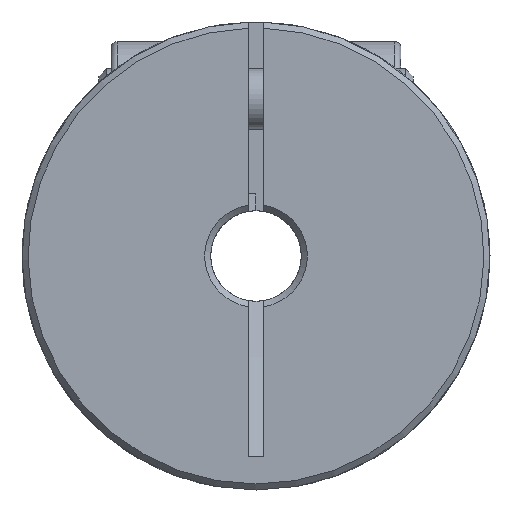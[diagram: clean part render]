
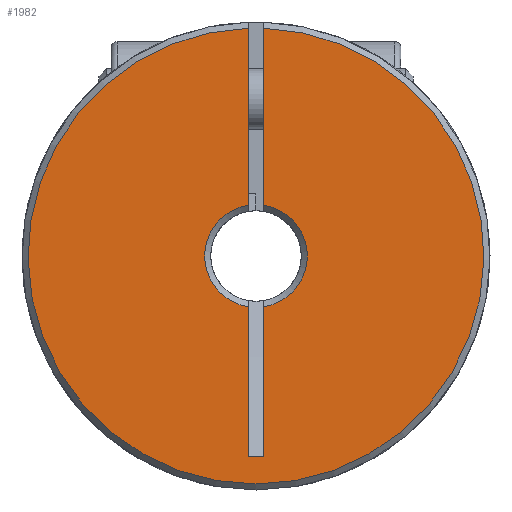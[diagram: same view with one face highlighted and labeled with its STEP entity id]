
A CAD part, left-side view. The second image highlights one B-rep face of the part: STEP entity #1982.
In plain terms, the highlighted planar face has unit normal (-1, 0, 0).
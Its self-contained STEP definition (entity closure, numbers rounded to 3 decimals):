
#137=LINE('',#3213,#217);
#140=LINE('',#3224,#220);
#143=LINE('',#3255,#223);
#148=LINE('',#3277,#228);
#149=LINE('',#3285,#229);
#217=VECTOR('',#2486,1000.);
#220=VECTOR('',#2491,1000.);
#223=VECTOR('',#2506,1000.);
#228=VECTOR('',#2515,1000.);
#229=VECTOR('',#2518,1000.);
#387=ORIENTED_EDGE('',*,*,#850,.T.);
#388=ORIENTED_EDGE('',*,*,#799,.F.);
#389=ORIENTED_EDGE('',*,*,#809,.F.);
#390=ORIENTED_EDGE('',*,*,#819,.T.);
#391=ORIENTED_EDGE('',*,*,#851,.T.);
#392=ORIENTED_EDGE('',*,*,#817,.T.);
#393=ORIENTED_EDGE('',*,*,#852,.F.);
#394=ORIENTED_EDGE('',*,*,#795,.F.);
#795=EDGE_CURVE('',#1031,#1032,#137,.T.);
#799=EDGE_CURVE('',#1035,#1036,#140,.T.);
#809=EDGE_CURVE('',#1044,#1035,#143,.T.);
#817=EDGE_CURVE('',#1047,#1051,#148,.T.);
#819=EDGE_CURVE('',#1044,#1052,#149,.T.);
#850=EDGE_CURVE('',#1031,#1036,#1219,.T.);
#851=EDGE_CURVE('',#1052,#1047,#1220,.T.);
#852=EDGE_CURVE('',#1032,#1051,#1221,.T.);
#1031=VERTEX_POINT('',#3212);
#1032=VERTEX_POINT('',#3214);
#1035=VERTEX_POINT('',#3225);
#1036=VERTEX_POINT('',#3226);
#1044=VERTEX_POINT('',#3254);
#1047=VERTEX_POINT('',#3264);
#1051=VERTEX_POINT('',#3276);
#1052=VERTEX_POINT('',#3283);
#1219=CIRCLE('',#2177,1.7);
#1220=CIRCLE('',#2178,1.7);
#1221=CIRCLE('',#2179,7.55);
#1365=EDGE_LOOP('',(#387,#388,#389,#390,#391,#392,#393,#394));
#1637=FACE_BOUND('',#1365,.T.);
#1892=PLANE('',#2176);
#1982=ADVANCED_FACE('',(#1637),#1892,.F.);
#2176=AXIS2_PLACEMENT_3D('',#3409,#2568,#2569);
#2177=AXIS2_PLACEMENT_3D('',#3410,#2570,#2571);
#2178=AXIS2_PLACEMENT_3D('',#3411,#2572,#2573);
#2179=AXIS2_PLACEMENT_3D('',#3412,#2574,#2575);
#2486=DIRECTION('',(0.,0.,1.));
#2491=DIRECTION('',(0.,0.,1.));
#2506=DIRECTION('',(0.,-1.,0.));
#2515=DIRECTION('',(0.,0.,1.));
#2518=DIRECTION('',(0.,0.,1.));
#2568=DIRECTION('',(1.,0.,0.));
#2569=DIRECTION('',(0.,0.,-1.));
#2570=DIRECTION('',(1.,0.,0.));
#2571=DIRECTION('',(0.,0.,-1.));
#2572=DIRECTION('',(1.,0.,0.));
#2573=DIRECTION('',(0.,0.,-1.));
#2574=DIRECTION('',(1.,0.,0.));
#2575=DIRECTION('',(0.,0.,-1.));
#3212=CARTESIAN_POINT('',(0.,-0.25,1.682));
#3213=CARTESIAN_POINT('',(0.,-0.25,-6.624));
#3214=CARTESIAN_POINT('',(0.,-0.25,7.546));
#3224=CARTESIAN_POINT('',(0.,-0.25,-6.624));
#3225=CARTESIAN_POINT('',(0.,-0.25,-6.624));
#3226=CARTESIAN_POINT('',(0.,-0.25,-1.682));
#3254=CARTESIAN_POINT('',(0.,0.25,-6.624));
#3255=CARTESIAN_POINT('',(0.,0.25,-6.624));
#3264=CARTESIAN_POINT('',(0.,0.25,1.682));
#3276=CARTESIAN_POINT('',(0.,0.25,7.546));
#3277=CARTESIAN_POINT('',(0.,0.25,-6.624));
#3283=CARTESIAN_POINT('',(0.,0.25,-1.682));
#3285=CARTESIAN_POINT('',(0.,0.25,-6.624));
#3409=CARTESIAN_POINT('',(0.,0.,0.));
#3410=CARTESIAN_POINT('',(0.,0.,0.));
#3411=CARTESIAN_POINT('',(0.,0.,0.));
#3412=CARTESIAN_POINT('',(0.,0.,0.));
